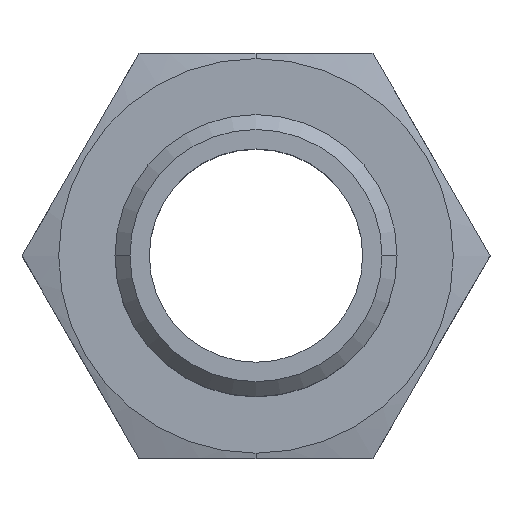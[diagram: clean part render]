
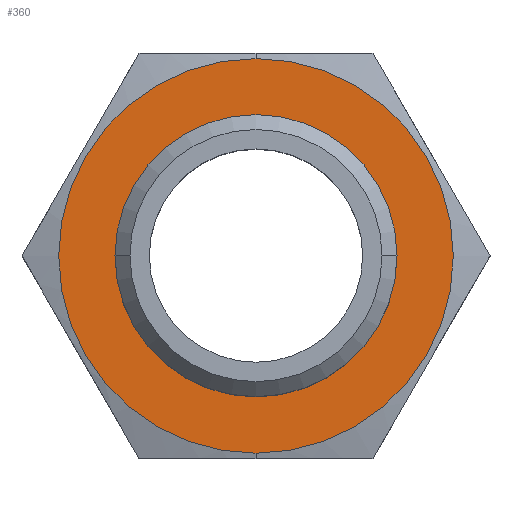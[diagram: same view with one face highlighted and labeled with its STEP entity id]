
A CAD part, top view. The second image highlights one B-rep face of the part: STEP entity #360.
In plain terms, the highlighted planar face has unit normal (0, 0, 1).
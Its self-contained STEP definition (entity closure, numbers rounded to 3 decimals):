
#10=CARTESIAN_POINT('',(0.,0.,9.4));
#20=DIRECTION('',(0.,0.,1.));
#30=DIRECTION('',(1.,0.,0.));
#40=AXIS2_PLACEMENT_3D('',#10,#20,#30);
#50=PLANE('',#40);
#60=CARTESIAN_POINT('',(37.681,57.978,9.4));
#70=DIRECTION('',(0.,0.,-1.));
#80=DIRECTION('',(0.,-1.,0.));
#90=AXIS2_PLACEMENT_3D('',#60,#70,#80);
#100=CIRCLE('',#90,18.5);
#110=CARTESIAN_POINT('',(37.681,39.478,9.4));
#120=VERTEX_POINT('',#110);
#130=CARTESIAN_POINT('',(37.681,76.478,9.4));
#140=VERTEX_POINT('',#130);
#150=EDGE_CURVE('',#120,#140,#100,.T.);
#160=ORIENTED_EDGE('',*,*,#150,.F.);
#170=EDGE_CURVE('',#140,#120,#100,.T.);
#180=ORIENTED_EDGE('',*,*,#170,.F.);
#190=EDGE_LOOP('',(#180,#160));
#200=FACE_OUTER_BOUND('',#190,.T.);
#210=CARTESIAN_POINT('',(37.681,57.978,9.4));
#220=DIRECTION('',(0.,0.,1.));
#230=DIRECTION('',(1.,0.,0.));
#240=AXIS2_PLACEMENT_3D('',#210,#220,#230);
#250=CIRCLE('',#240,13.221);
#260=CARTESIAN_POINT('',(50.901,57.978,9.4));
#270=VERTEX_POINT('',#260);
#280=CARTESIAN_POINT('',(24.46,57.978,9.4));
#290=VERTEX_POINT('',#280);
#300=EDGE_CURVE('',#270,#290,#250,.T.);
#310=ORIENTED_EDGE('',*,*,#300,.F.);
#320=EDGE_CURVE('',#290,#270,#250,.T.);
#330=ORIENTED_EDGE('',*,*,#320,.F.);
#340=EDGE_LOOP('',(#330,#310));
#350=FACE_BOUND('',#340,.T.);
#360=ADVANCED_FACE('',(#200,#350),#50,.T.);
